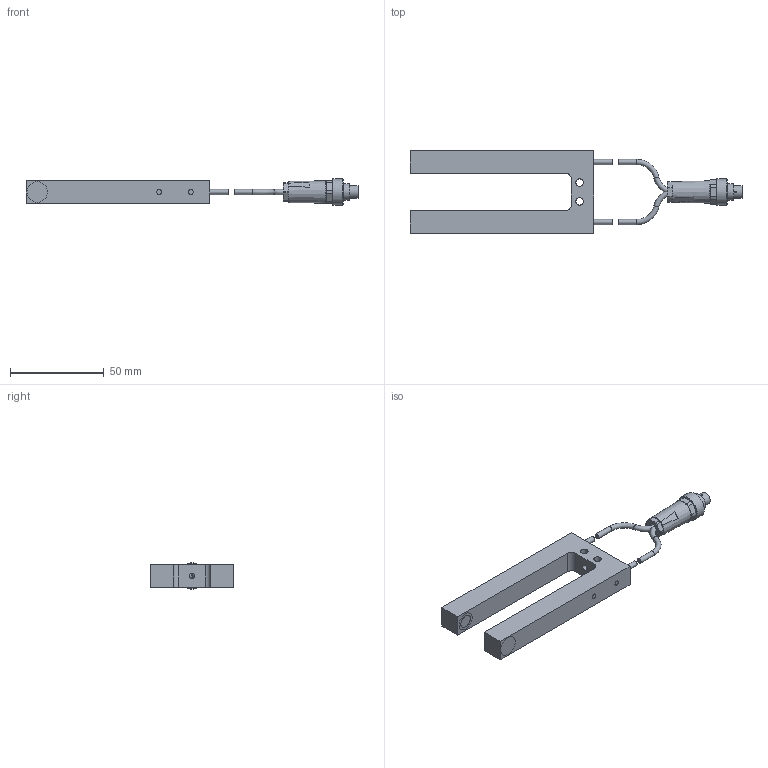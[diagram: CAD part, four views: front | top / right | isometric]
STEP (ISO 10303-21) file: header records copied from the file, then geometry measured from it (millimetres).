
FILE_DESCRIPTION(/* description */ (''),/* implementation_level */ '2;1');
FILE_NAME(/* name */ 'H:\ZVW\Inventor\E-Mail-Zeichnungen\STEP\HOMEPAGE\A-LAS-F12-...-20_80-C_0720_00.stp',/* time_stamp */ '2014-08-18T16:21:49+02:00',/* author */ ('TK-01'),/* organization */ (''),/* preprocessor_version */ 'ST-DEVELOPER v15.2',/* originating_system */ 'Autodesk Inventor 2014',/* authorisation */ '');
FILE_SCHEMA (('AUTOMOTIVE_DESIGN { 1 0 10303 214 3 1 1 }'));
Length unit declared in the file: millimetre
Products named in the file (1): Bauteil14
Bounding box: 177.1 x 44 x 14 mm (x, y, z)
Surface area: 47620.8 mm2
Topology: 8 solids, 12 shells, 158 faces, 336 edges, 220 vertices
Faces by surface type: plane 72, cylinder 59, cone 11, sphere 9, torus 5, bspline 2
Full cylindrical faces by diameter (mm): 0.5 x7, 2.5 x8, 2.8 x5, 2.9 x2, 3.2 x1, 4.1 x2, 5.5 x1, 6 x1, 6.8 x1, 7.1 x1, 7.15 x2, 7.5 x1, 8 x1, 9 x2, 10 x2, 14 x1
Entity records: 4091 total; most frequent: CARTESIAN_POINT 789, DIRECTION 686, ORIENTED_EDGE 508, AXIS2_PLACEMENT_3D 300, EDGE_CURVE 250, EDGE_LOOP 248, VERTEX_POINT 192, ADVANCED_FACE 158
